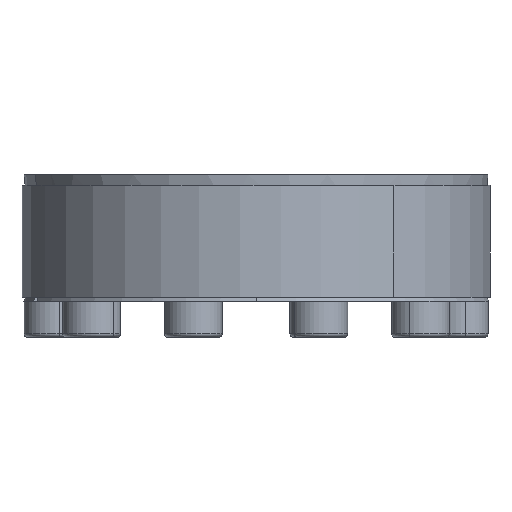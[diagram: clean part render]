
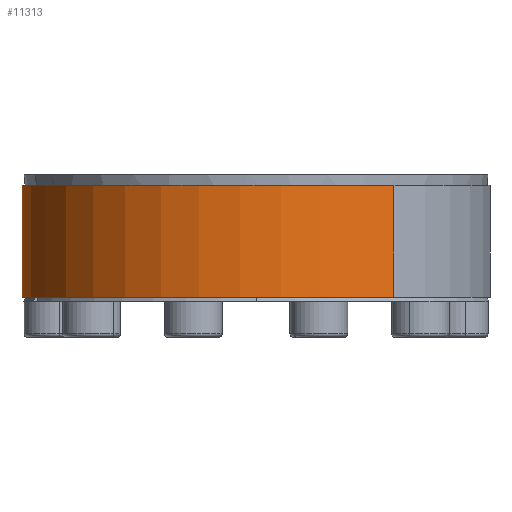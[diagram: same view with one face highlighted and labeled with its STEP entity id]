
A CAD part, left-side view. The second image highlights one B-rep face of the part: STEP entity #11313.
In plain terms, the highlighted cylindrical face has radius 64.98 mm (diameter 129.96 mm), a partial arc.
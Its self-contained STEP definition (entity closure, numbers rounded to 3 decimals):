
#1830 = DIRECTION ( 'NONE',  ( 0.809, 0.588, 0. ) ) ;
#2045 = LINE ( 'NONE', #11740, #5200 ) ;
#2066 = DIRECTION ( 'NONE',  ( 0., 0., 1. ) ) ;
#2074 = CARTESIAN_POINT ( 'NONE',  ( -52.57, -38.194, 32.054 ) ) ;
#2079 = CIRCLE ( 'NONE', #10441, 64.98 ) ;
#2153 = DIRECTION ( 'NONE',  ( 0., 0., -1. ) ) ;
#2531 = ORIENTED_EDGE ( 'NONE', *, *, #13790, .F. ) ;
#2737 = EDGE_CURVE ( 'NONE', #13614, #10097, #3832, .T. ) ;
#2862 = CARTESIAN_POINT ( 'NONE',  ( 52.57, 38.194, 1.054 ) ) ;
#3108 = EDGE_CURVE ( 'NONE', #9056, #8336, #2079, .T. ) ;
#3327 = EDGE_CURVE ( 'NONE', #9056, #13614, #2045, .T. ) ;
#3832 = CIRCLE ( 'NONE', #4892, 64.98 ) ;
#4892 = AXIS2_PLACEMENT_3D ( 'NONE', #9158, #2066, #10348 ) ;
#5013 = ORIENTED_EDGE ( 'NONE', *, *, #3108, .F. ) ;
#5200 = VECTOR ( 'NONE', #9251, 1000. ) ;
#5252 = CARTESIAN_POINT ( 'NONE',  ( 0., 0., 32.054 ) ) ;
#6183 = EDGE_LOOP ( 'NONE', ( #2531, #5013, #9829, #12932 ) ) ;
#6316 = DIRECTION ( 'NONE',  ( 0., 0., 1. ) ) ;
#6583 = AXIS2_PLACEMENT_3D ( 'NONE', #5252, #12436, #1830 ) ;
#6829 = CARTESIAN_POINT ( 'NONE',  ( -52.57, -38.194, 32.054 ) ) ;
#7770 = FACE_OUTER_BOUND ( 'NONE', #6183, .T. ) ;
#8336 = VERTEX_POINT ( 'NONE', #2074 ) ;
#9056 = VERTEX_POINT ( 'NONE', #12065 ) ;
#9158 = CARTESIAN_POINT ( 'NONE',  ( 0., 0., 1.054 ) ) ;
#9251 = DIRECTION ( 'NONE',  ( 0., 0., -1. ) ) ;
#9453 = CARTESIAN_POINT ( 'NONE',  ( -52.57, -38.194, 1.054 ) ) ;
#9829 = ORIENTED_EDGE ( 'NONE', *, *, #3327, .T. ) ;
#10097 = VERTEX_POINT ( 'NONE', #9453 ) ;
#10348 = DIRECTION ( 'NONE',  ( -0.809, -0.588, 0. ) ) ;
#10441 = AXIS2_PLACEMENT_3D ( 'NONE', #13388, #6316, #14570 ) ;
#11313 = ADVANCED_FACE ( 'NONE', ( #7770 ), #12555, .T. ) ;
#11740 = CARTESIAN_POINT ( 'NONE',  ( 52.57, 38.194, 32.054 ) ) ;
#11742 = VECTOR ( 'NONE', #2153, 1000. ) ;
#12065 = CARTESIAN_POINT ( 'NONE',  ( 52.57, 38.194, 32.054 ) ) ;
#12436 = DIRECTION ( 'NONE',  ( 0., 0., -1. ) ) ;
#12555 = CYLINDRICAL_SURFACE ( 'NONE', #6583, 64.98 ) ;
#12932 = ORIENTED_EDGE ( 'NONE', *, *, #2737, .T. ) ;
#13388 = CARTESIAN_POINT ( 'NONE',  ( 0., 0., 32.054 ) ) ;
#13614 = VERTEX_POINT ( 'NONE', #2862 ) ;
#13790 = EDGE_CURVE ( 'NONE', #8336, #10097, #15230, .T. ) ;
#14570 = DIRECTION ( 'NONE',  ( -0.809, -0.588, 0. ) ) ;
#15230 = LINE ( 'NONE', #6829, #11742 ) ;
